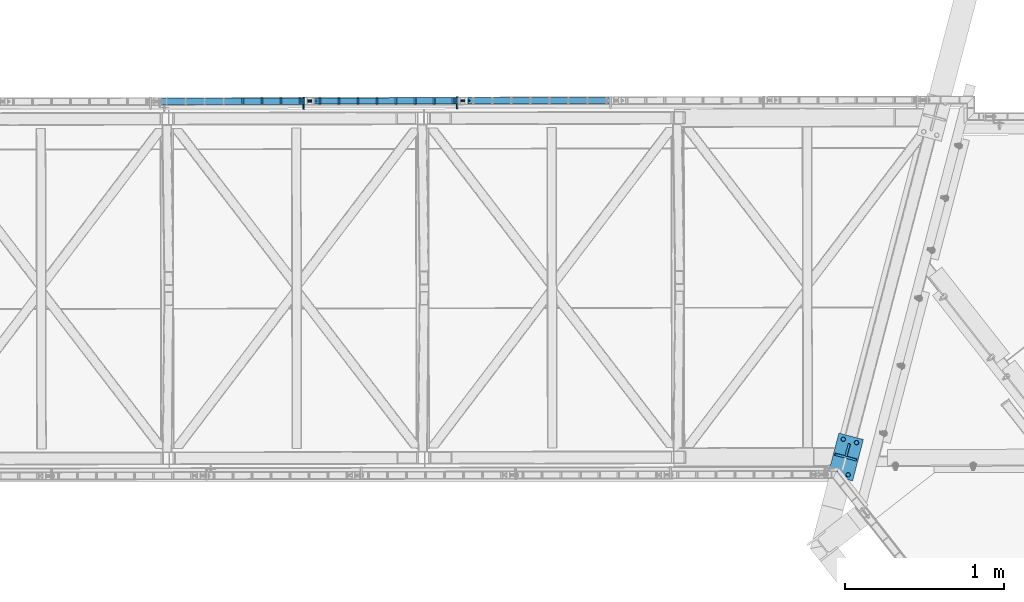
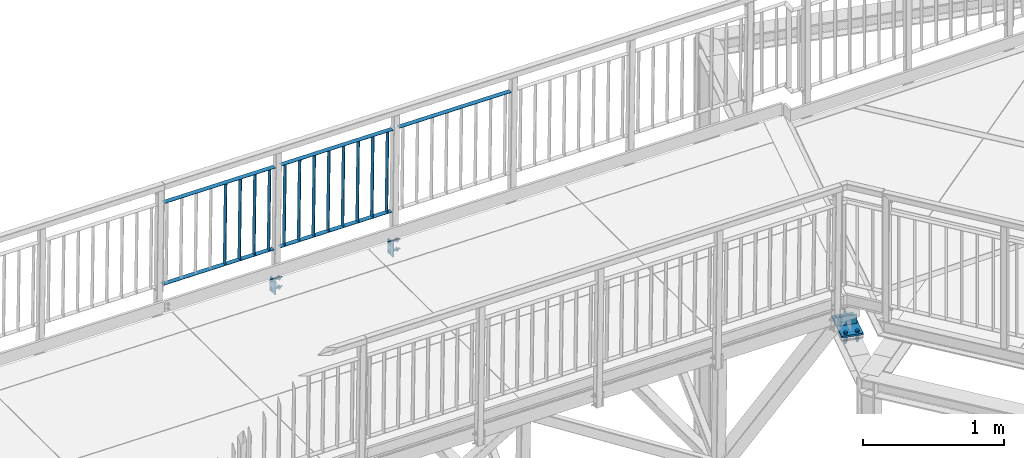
# One storey, part 120 of 169: 22 discrete accessories, 3 mechanical fasteners, 3 elements without a shape of their own.
"""IFC2X3 building model written with IfcOpenShell, lengths in millimetres."""

from ifc_helpers import new_model, si_unit, frame, origin_with_axes, origin_2d_with_axis, place, context, subcontext, project, spatial, polyline, rectangle, circle, outline, extrude, boolean, clip, halfspace, source, transform, mapped, material, type_object, element, aggregate, save


model = new_model("IFC2X3")

# Units and contexts
model_context = context("Model", 3, precision=1e-05, world=origin_with_axes())
body_context = subcontext(model_context, "Body", "Model", "MODEL_VIEW")
ifc_project = project(units=[si_unit("LENGTHUNIT", "METRE", prefix="MILLI"), si_unit("AREAUNIT", "SQUARE_METRE"), si_unit("VOLUMEUNIT", "CUBIC_METRE"), si_unit("MASSUNIT", "GRAM", prefix="KILO"), si_unit("TIMEUNIT", "SECOND"), si_unit("PLANEANGLEUNIT", "RADIAN"), si_unit("SOLIDANGLEUNIT", "STERADIAN"), si_unit("THERMODYNAMICTEMPERATUREUNIT", "DEGREE_CELSIUS"), si_unit("LUMINOUSINTENSITYUNIT", "LUMEN")], contexts=[model_context])

# Site, building, storey
site_placement = place(None, origin_with_axes())
site = spatial("IfcSite", under=ifc_project, at=site_placement, Name="Undefined", CompositionType="ELEMENT")
building_placement = place(site_placement, origin_with_axes())
building = spatial("IfcBuilding", under=site, at=building_placement, Name="Undefined", CompositionType="ELEMENT")
storey_placement = place(building_placement, origin_with_axes())
storey = spatial("IfcBuildingStorey", under=building, at=storey_placement, Name="Undefined", CompositionType="ELEMENT", Elevation=0.0)

# Assembly, discrete accessories
assembly_1_placement = place(storey_placement, origin_with_axes())
assembly_1 = element("IfcElementAssembly", 1, at=assembly_1_placement, inside=storey, Name="Steel Assembly", AssemblyPlace="NOTDEFINED", PredefinedType="RIGID_FRAME")
ifc_material_1 = material(Name="STEEL/S235")
discrete_accessory_type_1 = type_object("IfcDiscreteAccessoryType", Name="BLACHA")
discrete_accessory_1_placement = place(assembly_1_placement, frame((15987.3560823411, 2334.83201882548, 13750.9538254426), z_axis=(0.9999174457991, 0.00186469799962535, -0.0127131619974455), x_axis=(-0.0018648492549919, 0.999998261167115, -4.2996762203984e-08)))
discrete_accessory_1 = element("IfcDiscreteAccessory", 2, at=discrete_accessory_1_placement, type_object=discrete_accessory_type_1, material=ifc_material_1, Name="BLACHA", ObjectType="BL10*120", context=body_context, shape_type="SweptSolid", body=[
    extrude(outline(polyline([(-5.35749222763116e-11, -59.9999999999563), (5.3567816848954e-11, 59.9999999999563), (75.0000002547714, 59.9999999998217), (75.0000002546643, -60.0000000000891), (-5.35749222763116e-11, -59.9999999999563)])), frame((-1.81898926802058e-12, -1.18000176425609e-16, -5.00000000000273), z_axis=(0.0, 0.0, 1.0), x_axis=(1.0, 0.0, 0.0)), (0.0, 0.0, 1.0), 10.0),
])
discrete_accessory_2_placement = place(assembly_1_placement, frame((15020.7414284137, 2333.02942656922, 13763.2435686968), z_axis=(0.9999174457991, 0.00186469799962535, -0.0127131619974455), x_axis=(-0.0018648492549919, 0.999998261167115, -4.2996762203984e-08)))
discrete_accessory_2 = element("IfcDiscreteAccessory", 3, at=discrete_accessory_2_placement, type_object=discrete_accessory_type_1, material=ifc_material_1, Name="BLACHA", ObjectType="BL10*120", context=body_context, shape_type="SweptSolid", body=[
    extrude(outline(polyline([(-5.35749222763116e-11, -59.9999999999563), (5.3567816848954e-11, 59.9999999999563), (75.0000002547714, 59.9999999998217), (75.0000002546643, -60.0000000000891), (-5.35749222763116e-11, -59.9999999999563)])), frame((-1.81898926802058e-12, -1.18000176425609e-16, -5.00000000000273), z_axis=(0.0, 0.0, 1.0), x_axis=(1.0, 0.0, 0.0)), (0.0, 0.0, 1.0), 10.0),
])
ifc_material_2 = material(Name="STEEL/S355")
discrete_accessory_3_placement = place(assembly_1_placement, frame((18325.6061062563, 28.8059378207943, 13577.7063906), z_axis=(0.0, 0.0, 1.0), x_axis=(0.967563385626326, -0.252628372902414, 0.0)))
discrete_accessory_3 = element("IfcDiscreteAccessory", 4, at=discrete_accessory_3_placement, type_object=discrete_accessory_type_1, material=ifc_material_2, Name="BLACHA", ObjectType="BL15*160", context=body_context, shape_type="SweptSolid", body=[
    extrude(outline(polyline([(0.0, 0.0), (160.000000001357, 1.36424205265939e-10), (160.000000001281, 269.999999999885), (-5.46424416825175e-09, 269.999999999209), (0.0, 0.0)])), frame((0.0, -1.24077091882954e-23, -7.49999999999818), z_axis=(0.0, 0.0, 1.0), x_axis=(1.0, 0.0, 0.0)), (0.0, 0.0, 1.0), 15.0),
])
discrete_accessory_type_2 = type_object("IfcDiscreteAccessoryType", Name="BEAM")
discrete_accessory_4_placement = place(assembly_1_placement, frame((18449.7792712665, 183.728725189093, 13595.7127868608), z_axis=(-0.967562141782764, 0.252628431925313, -0.00154180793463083), x_axis=(-0.00159589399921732, -9.18599999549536e-06, 0.999998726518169)))
discrete_accessory_4 = element("IfcDiscreteAccessory", 5, at=discrete_accessory_4_placement, type_object=discrete_accessory_type_2, material=ifc_material_1, Name="BEAM", ObjectType="BL12*80", context=body_context, shape_type="Clipping", body=[
    clip(clip(extrude(outline(polyline([(-10.4899134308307, -39.99999999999), (-10.522877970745, 39.9999999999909), (63.835120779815, 39.9999999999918), (64.1268866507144, -39.99999999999), (-10.4899134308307, -39.99999999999)])), frame((-1.81898942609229e-12, -1.81898940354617e-12, -5.99999999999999), z_axis=(0.0, 0.0, 1.0), x_axis=(1.0, 0.0, 0.0)), (0.0, 0.0, 1.0), 12.0), halfspace(frame((-10.9184715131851, 1000.0030055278, -0.0115622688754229), z_axis=(0.999998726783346, 0.000412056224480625, -0.00154163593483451), x_axis=(-0.00154163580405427, -6.35004767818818e-07, -0.999998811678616)), True)), halfspace(frame((67.6403388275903, -1000.2121514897, 0.830186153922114), z_axis=(-0.999897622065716, -0.00364670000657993, 0.0138364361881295), x_axis=(-0.0138363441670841, -5.04626413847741e-05, -0.999904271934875)), True)),
])
discrete_accessory_5_placement = place(assembly_1_placement, frame((18437.116012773, 139.216722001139, 13546.2064043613), z_axis=(-0.252628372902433, -0.967563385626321, 0.0), x_axis=(0.0, 0.0, 1.0)))
discrete_accessory_5 = element("IfcDiscreteAccessory", 6, at=discrete_accessory_5_placement, type_object=discrete_accessory_type_2, material=ifc_material_1, Name="BEAM", ObjectType="BL12*140", context=body_context, shape_type="Clipping", body=[
    clip(clip(extrude(outline(polyline([(38.9999999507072, 69.9999999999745), (114.508781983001, 69.9999999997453), (112.787351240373, -70.0000000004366), (39.0000000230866, -70.0000000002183), (38.9999999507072, 69.9999999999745)])), frame((-1.81898942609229e-12, -1.81898940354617e-12, -5.99999999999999), z_axis=(0.0, 0.0, 1.0), x_axis=(1.0, 0.0, 0.0)), (0.0, 0.0, 1.0), 12.0), halfspace(frame((38.9999996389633, 1000.00000000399, 4.52928361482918e-09), z_axis=(1.0, 0.0, 0.0), x_axis=(-2.54700353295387e-10, 0.0, -1.0)), True)), halfspace(frame((125.952769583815, 1000.66210997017, 0.194080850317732), z_axis=(-0.999919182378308, 0.0122949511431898, 0.00323463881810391), x_axis=(0.00323439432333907, -3.97698973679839e-05, 0.999994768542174)), True)),
])
aggregate(assembly_1, [discrete_accessory_1, discrete_accessory_2, discrete_accessory_4, discrete_accessory_5, discrete_accessory_3])

# Assembly, discrete accessories, mechanical fasteners
assembly_2_placement = place(storey_placement, origin_with_axes())
assembly_2 = element("IfcElementAssembly", 7, at=assembly_2_placement, inside=storey, Name="Steel Assembly", AssemblyPlace="NOTDEFINED", PredefinedType="RIGID_FRAME")
discrete_accessory_type_3 = type_object("IfcDiscreteAccessoryType", Name="PORĘCZ")
discrete_accessory_6_placement = place(assembly_2_placement, frame((14096.9348925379, 2381.30679816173, 14790.0698868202), z_axis=(-0.012713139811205, -2.37511238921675e-05, -0.999919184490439), x_axis=(0.9999174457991, 0.00186469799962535, -0.0127131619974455)))
discrete_accessory_6 = element("IfcDiscreteAccessory", 8, at=discrete_accessory_6_placement, type_object=discrete_accessory_type_3, material=ifc_material_1, Name="PORĘCZ", ObjectType="BL40*3", context=body_context, shape_type="CSG", body=[
    boolean("DIFFERENCE", boolean("DIFFERENCE", boolean("DIFFERENCE", extrude(outline(polyline([(30.1906973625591, 20.0000000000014), (941.194458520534, 20.0000000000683), (941.194458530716, -19.9999999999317), (30.1906973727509, -19.9999999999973), (30.1906973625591, 20.0000000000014)])), frame((1.81898940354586e-12, -1.77635442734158e-15, -1.50000000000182), z_axis=(0.0, 0.0, 1.0), x_axis=(1.0, 0.0, 0.0)), (0.0, 0.0, 1.0), 3.0), extrude(rectangle(XDim=51.0, YDim=51.0, at=origin_2d_with_axis()), frame((-5.94487782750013e-08, -4.65977194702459e-09, -139.999999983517), z_axis=(0.0, 0.0, 1.0), x_axis=(1.0, 0.0, 0.0)), (0.0, 0.0, 1.0), 280.0)), extrude(rectangle(XDim=51.0, YDim=51.0, at=origin_2d_with_axis()), frame((966.694458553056, -6.96000839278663e-09, -139.999999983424), z_axis=(0.0, 0.0, 1.0), x_axis=(1.0, 0.0, 0.0)), (0.0, 0.0, 1.0), 280.0)), halfspace(frame((30.1906971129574, 1000.00000000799, -1.20417098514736e-09), z_axis=(1.0, 0.0, 0.0), x_axis=(-2.54700353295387e-10, 0.0, -1.0)), True)),
])
discrete_accessory_7_placement = place(assembly_2_placement, frame((15063.5495464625, 2383.10939138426, 14777.7801435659), z_axis=(-0.012713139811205, -2.37511238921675e-05, -0.999919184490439), x_axis=(0.9999174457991, 0.00186469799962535, -0.0127131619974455)))
discrete_accessory_7 = element("IfcDiscreteAccessory", 9, at=discrete_accessory_7_placement, type_object=discrete_accessory_type_3, material=ifc_material_1, Name="PORĘCZ", ObjectType="BL40*3", context=body_context, shape_type="CSG", body=[
    boolean("DIFFERENCE", boolean("DIFFERENCE", extrude(outline(polyline([(25.4999999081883, 20.0000000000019), (941.194458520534, 20.0000000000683), (941.194458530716, -19.9999999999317), (25.499999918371, -19.9999999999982), (25.4999999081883, 20.0000000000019)])), frame((1.81898940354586e-12, -1.77635442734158e-15, -1.50000000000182), z_axis=(0.0, 0.0, 1.0), x_axis=(1.0, 0.0, 0.0)), (0.0, 0.0, 1.0), 3.0), extrude(rectangle(XDim=51.0, YDim=51.0, at=origin_2d_with_axis()), frame((-5.94487782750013e-08, -4.65977194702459e-09, -139.999999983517), z_axis=(0.0, 0.0, 1.0), x_axis=(1.0, 0.0, 0.0)), (0.0, 0.0, 1.0), 280.0)), extrude(rectangle(XDim=51.0, YDim=51.0, at=origin_2d_with_axis()), frame((966.694458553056, -6.96000839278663e-09, -139.999999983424), z_axis=(0.0, 0.0, 1.0), x_axis=(1.0, 0.0, 0.0)), (0.0, 0.0, 1.0), 280.0)),
])
discrete_accessory_8_placement = place(assembly_2_placement, frame((16030.1642003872, 2384.91198460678, 14765.4904003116), z_axis=(-0.012713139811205, -2.37511238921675e-05, -0.999919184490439), x_axis=(0.9999174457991, 0.00186469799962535, -0.0127131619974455)))
discrete_accessory_8 = element("IfcDiscreteAccessory", 10, at=discrete_accessory_8_placement, type_object=discrete_accessory_type_3, material=ifc_material_1, Name="PORĘCZ", ObjectType="BL40*3", context=body_context, shape_type="CSG", body=[
    boolean("DIFFERENCE", boolean("DIFFERENCE", extrude(outline(polyline([(25.4999999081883, 20.0000000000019), (941.194458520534, 20.0000000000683), (941.194458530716, -19.9999999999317), (25.499999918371, -19.9999999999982), (25.4999999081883, 20.0000000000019)])), frame((1.81898940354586e-12, -1.77635442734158e-15, -1.50000000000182), z_axis=(0.0, 0.0, 1.0), x_axis=(1.0, 0.0, 0.0)), (0.0, 0.0, 1.0), 3.0), extrude(rectangle(XDim=51.0, YDim=51.0, at=origin_2d_with_axis()), frame((-5.94487782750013e-08, -4.65977194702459e-09, -139.999999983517), z_axis=(0.0, 0.0, 1.0), x_axis=(1.0, 0.0, 0.0)), (0.0, 0.0, 1.0), 280.0)), extrude(rectangle(XDim=51.0, YDim=51.0, at=origin_2d_with_axis()), frame((966.694458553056, -6.96000839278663e-09, -139.999999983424), z_axis=(0.0, 0.0, 1.0), x_axis=(1.0, 0.0, 0.0)), (0.0, 0.0, 1.0), 280.0)),
])
discrete_accessory_9_placement = place(assembly_2_placement, frame((14642.0806713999, 2382.32342056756, 14928.1505072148), z_axis=(0.00186484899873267, -0.999998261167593, 4.28757666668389e-08), x_axis=(-0.012713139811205, -2.37511238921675e-05, -0.999919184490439)))
discrete_accessory_9 = element("IfcDiscreteAccessory", 11, at=discrete_accessory_9_placement, type_object=discrete_accessory_type_3, material=ifc_material_1, Name="PORĘCZ", ObjectType="BL40*3", context=body_context, shape_type="Clipping", body=[
    clip(clip(extrude(rectangle(XDim=3.0, YDim=40.0, at=origin_2d_with_axis()), frame((848.500000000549, 1.47191286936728e-15, -8.89750592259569e-16), z_axis=(-1.0, -3.46944695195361e-18, -1.38777878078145e-17), x_axis=(1.73472347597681e-18, -1.0, 0.0)), (0.0, 0.0, 1.0), 702.0), halfspace(frame((848.499999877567, 4.522007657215e-09, 1000.00000000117), z_axis=(-1.0, -3.46944695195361e-18, -1.38777878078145e-17), x_axis=(1.73472347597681e-18, -1.0, 0.0)), True)), halfspace(frame((146.499999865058, 4.97311702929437e-09, 1000.00000000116), z_axis=(1.0, 0.0, 0.0), x_axis=(0.0, 1.0, 0.0)), True)),
])
discrete_accessory_10_placement = place(assembly_2_placement, frame((14762.0707648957, 2382.54718432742, 14926.6249277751), z_axis=(0.00186484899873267, -0.999998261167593, 4.28757666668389e-08), x_axis=(-0.012713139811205, -2.37511238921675e-05, -0.999919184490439)))
discrete_accessory_10 = element("IfcDiscreteAccessory", 12, at=discrete_accessory_10_placement, type_object=discrete_accessory_type_3, material=ifc_material_1, Name="PORĘCZ", ObjectType="BL40*3", context=body_context, shape_type="Clipping", body=[
    clip(clip(extrude(rectangle(XDim=3.0, YDim=40.0, at=origin_2d_with_axis()), frame((848.500000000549, 1.47191286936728e-15, -8.89750592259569e-16), z_axis=(-1.0, -3.46944695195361e-18, -1.38777878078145e-17), x_axis=(1.73472347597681e-18, -1.0, 0.0)), (0.0, 0.0, 1.0), 702.0), halfspace(frame((848.499999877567, 4.522007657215e-09, 1000.00000000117), z_axis=(-1.0, -3.46944695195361e-18, -1.38777878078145e-17), x_axis=(1.73472347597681e-18, -1.0, 0.0)), True)), halfspace(frame((146.499999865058, 4.97311702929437e-09, 1000.00000000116), z_axis=(1.0, 0.0, 0.0), x_axis=(0.0, 1.0, 0.0)), True)),
])
discrete_accessory_11_placement = place(assembly_2_placement, frame((14882.0608583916, 2382.77094808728, 14925.0993483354), z_axis=(0.00186484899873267, -0.999998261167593, 4.28757666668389e-08), x_axis=(-0.012713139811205, -2.37511238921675e-05, -0.999919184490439)))
discrete_accessory_11 = element("IfcDiscreteAccessory", 13, at=discrete_accessory_11_placement, type_object=discrete_accessory_type_3, material=ifc_material_1, Name="PORĘCZ", ObjectType="BL40*3", context=body_context, shape_type="Clipping", body=[
    clip(clip(extrude(rectangle(XDim=3.0, YDim=40.0, at=origin_2d_with_axis()), frame((848.500000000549, 1.47191286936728e-15, -8.89750592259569e-16), z_axis=(-1.0, -3.46944695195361e-18, -1.38777878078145e-17), x_axis=(1.73472347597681e-18, -1.0, 0.0)), (0.0, 0.0, 1.0), 702.0), halfspace(frame((848.499999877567, 4.522007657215e-09, 1000.00000000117), z_axis=(-1.0, -3.46944695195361e-18, -1.38777878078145e-17), x_axis=(1.73472347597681e-18, -1.0, 0.0)), True)), halfspace(frame((146.499999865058, 4.97311702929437e-09, 1000.00000000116), z_axis=(1.0, 0.0, 0.0), x_axis=(0.0, 1.0, 0.0)), True)),
])
discrete_accessory_12_placement = place(assembly_2_placement, frame((15002.0509518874, 2382.99471184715, 14923.5737688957), z_axis=(0.00186484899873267, -0.999998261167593, 4.28757666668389e-08), x_axis=(-0.012713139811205, -2.37511238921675e-05, -0.999919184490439)))
discrete_accessory_12 = element("IfcDiscreteAccessory", 14, at=discrete_accessory_12_placement, type_object=discrete_accessory_type_3, material=ifc_material_1, Name="PORĘCZ", ObjectType="BL40*3", context=body_context, shape_type="Clipping", body=[
    clip(clip(extrude(rectangle(XDim=3.0, YDim=40.0, at=origin_2d_with_axis()), frame((848.500000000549, 1.47191286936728e-15, -8.89750592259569e-16), z_axis=(-1.0, -3.46944695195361e-18, -1.38777878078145e-17), x_axis=(1.73472347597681e-18, -1.0, 0.0)), (0.0, 0.0, 1.0), 702.0), halfspace(frame((848.499999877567, 4.522007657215e-09, 1000.00000000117), z_axis=(-1.0, -3.46944695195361e-18, -1.38777878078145e-17), x_axis=(1.73472347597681e-18, -1.0, 0.0)), True)), halfspace(frame((146.499999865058, 4.97311702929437e-09, 1000.00000000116), z_axis=(1.0, 0.0, 0.0), x_axis=(0.0, 1.0, 0.0)), True)),
])
discrete_accessory_13_placement = place(assembly_2_placement, frame((15128.7349513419, 2383.23095875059, 14921.9630817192), z_axis=(0.00186484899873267, -0.999998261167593, 4.28757666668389e-08), x_axis=(-0.012713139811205, -2.37511238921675e-05, -0.999919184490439)))
discrete_accessory_13 = element("IfcDiscreteAccessory", 15, at=discrete_accessory_13_placement, type_object=discrete_accessory_type_3, material=ifc_material_1, Name="PORĘCZ", ObjectType="BL40*3", context=body_context, shape_type="Clipping", body=[
    clip(clip(extrude(rectangle(XDim=3.0, YDim=40.0, at=origin_2d_with_axis()), frame((848.500000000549, 1.47191286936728e-15, -8.89750592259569e-16), z_axis=(-1.0, -3.46944695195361e-18, -1.38777878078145e-17), x_axis=(1.73472347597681e-18, -1.0, 0.0)), (0.0, 0.0, 1.0), 702.0), halfspace(frame((848.499999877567, 4.522007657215e-09, 1000.00000000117), z_axis=(-1.0, -3.46944695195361e-18, -1.38777878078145e-17), x_axis=(1.73472347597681e-18, -1.0, 0.0)), True)), halfspace(frame((146.499999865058, 4.97311702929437e-09, 1000.00000000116), z_axis=(1.0, 0.0, 0.0), x_axis=(0.0, 1.0, 0.0)), True)),
])
discrete_accessory_14_placement = place(assembly_2_placement, frame((15248.7250448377, 2383.45472251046, 14920.4375022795), z_axis=(0.00186484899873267, -0.999998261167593, 4.28757666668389e-08), x_axis=(-0.012713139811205, -2.37511238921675e-05, -0.999919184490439)))
discrete_accessory_14 = element("IfcDiscreteAccessory", 16, at=discrete_accessory_14_placement, type_object=discrete_accessory_type_3, material=ifc_material_1, Name="PORĘCZ", ObjectType="BL40*3", context=body_context, shape_type="Clipping", body=[
    clip(clip(extrude(rectangle(XDim=3.0, YDim=40.0, at=origin_2d_with_axis()), frame((848.500000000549, 1.47191286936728e-15, -8.89750592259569e-16), z_axis=(-1.0, -3.46944695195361e-18, -1.38777878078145e-17), x_axis=(1.73472347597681e-18, -1.0, 0.0)), (0.0, 0.0, 1.0), 702.0), halfspace(frame((848.499999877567, 4.522007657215e-09, 1000.00000000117), z_axis=(-1.0, -3.46944695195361e-18, -1.38777878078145e-17), x_axis=(1.73472347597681e-18, -1.0, 0.0)), True)), halfspace(frame((146.499999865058, 4.97311702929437e-09, 1000.00000000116), z_axis=(1.0, 0.0, 0.0), x_axis=(0.0, 1.0, 0.0)), True)),
])
discrete_accessory_15_placement = place(assembly_2_placement, frame((15368.7151383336, 2383.67848627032, 14918.9119228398), z_axis=(0.00186484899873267, -0.999998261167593, 4.28757666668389e-08), x_axis=(-0.012713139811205, -2.37511238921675e-05, -0.999919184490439)))
discrete_accessory_15 = element("IfcDiscreteAccessory", 17, at=discrete_accessory_15_placement, type_object=discrete_accessory_type_3, material=ifc_material_1, Name="PORĘCZ", ObjectType="BL40*3", context=body_context, shape_type="Clipping", body=[
    clip(clip(extrude(rectangle(XDim=3.0, YDim=40.0, at=origin_2d_with_axis()), frame((848.500000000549, 1.47191286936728e-15, -8.89750592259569e-16), z_axis=(-1.0, -3.46944695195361e-18, -1.38777878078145e-17), x_axis=(1.73472347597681e-18, -1.0, 0.0)), (0.0, 0.0, 1.0), 702.0), halfspace(frame((848.499999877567, 4.522007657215e-09, 1000.00000000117), z_axis=(-1.0, -3.46944695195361e-18, -1.38777878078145e-17), x_axis=(1.73472347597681e-18, -1.0, 0.0)), True)), halfspace(frame((146.499999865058, 4.97311702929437e-09, 1000.00000000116), z_axis=(1.0, 0.0, 0.0), x_axis=(0.0, 1.0, 0.0)), True)),
])
discrete_accessory_16_placement = place(assembly_2_placement, frame((15488.7052318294, 2383.90225003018, 14917.3863434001), z_axis=(0.00186484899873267, -0.999998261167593, 4.28757666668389e-08), x_axis=(-0.012713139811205, -2.37511238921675e-05, -0.999919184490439)))
discrete_accessory_16 = element("IfcDiscreteAccessory", 18, at=discrete_accessory_16_placement, type_object=discrete_accessory_type_3, material=ifc_material_1, Name="PORĘCZ", ObjectType="BL40*3", context=body_context, shape_type="Clipping", body=[
    clip(clip(extrude(rectangle(XDim=3.0, YDim=40.0, at=origin_2d_with_axis()), frame((848.500000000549, 1.47191286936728e-15, -8.89750592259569e-16), z_axis=(-1.0, -3.46944695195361e-18, -1.38777878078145e-17), x_axis=(1.73472347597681e-18, -1.0, 0.0)), (0.0, 0.0, 1.0), 702.0), halfspace(frame((848.499999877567, 4.522007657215e-09, 1000.00000000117), z_axis=(-1.0, -3.46944695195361e-18, -1.38777878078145e-17), x_axis=(1.73472347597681e-18, -1.0, 0.0)), True)), halfspace(frame((146.499999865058, 4.97311702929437e-09, 1000.00000000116), z_axis=(1.0, 0.0, 0.0), x_axis=(0.0, 1.0, 0.0)), True)),
])
discrete_accessory_17_placement = place(assembly_2_placement, frame((15608.6953253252, 2384.12601379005, 14915.8607639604), z_axis=(0.00186484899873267, -0.999998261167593, 4.28757666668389e-08), x_axis=(-0.012713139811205, -2.37511238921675e-05, -0.999919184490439)))
discrete_accessory_17 = element("IfcDiscreteAccessory", 19, at=discrete_accessory_17_placement, type_object=discrete_accessory_type_3, material=ifc_material_1, Name="PORĘCZ", ObjectType="BL40*3", context=body_context, shape_type="Clipping", body=[
    clip(clip(extrude(rectangle(XDim=3.0, YDim=40.0, at=origin_2d_with_axis()), frame((848.500000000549, 1.47191286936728e-15, -8.89750592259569e-16), z_axis=(-1.0, -3.46944695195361e-18, -1.38777878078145e-17), x_axis=(1.73472347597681e-18, -1.0, 0.0)), (0.0, 0.0, 1.0), 702.0), halfspace(frame((848.499999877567, 4.522007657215e-09, 1000.00000000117), z_axis=(-1.0, -3.46944695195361e-18, -1.38777878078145e-17), x_axis=(1.73472347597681e-18, -1.0, 0.0)), True)), halfspace(frame((146.499999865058, 4.97311702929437e-09, 1000.00000000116), z_axis=(1.0, 0.0, 0.0), x_axis=(0.0, 1.0, 0.0)), True)),
])
discrete_accessory_18_placement = place(assembly_2_placement, frame((15728.6854188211, 2384.34977754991, 14914.3351845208), z_axis=(0.00186484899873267, -0.999998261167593, 4.28757666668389e-08), x_axis=(-0.012713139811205, -2.37511238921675e-05, -0.999919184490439)))
discrete_accessory_18 = element("IfcDiscreteAccessory", 20, at=discrete_accessory_18_placement, type_object=discrete_accessory_type_3, material=ifc_material_1, Name="PORĘCZ", ObjectType="BL40*3", context=body_context, shape_type="Clipping", body=[
    clip(clip(extrude(rectangle(XDim=3.0, YDim=40.0, at=origin_2d_with_axis()), frame((848.500000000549, 1.47191286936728e-15, -8.89750592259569e-16), z_axis=(-1.0, -3.46944695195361e-18, -1.38777878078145e-17), x_axis=(1.73472347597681e-18, -1.0, 0.0)), (0.0, 0.0, 1.0), 702.0), halfspace(frame((848.499999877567, 4.522007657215e-09, 1000.00000000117), z_axis=(-1.0, -3.46944695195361e-18, -1.38777878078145e-17), x_axis=(1.73472347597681e-18, -1.0, 0.0)), True)), halfspace(frame((146.499999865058, 4.97311702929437e-09, 1000.00000000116), z_axis=(1.0, 0.0, 0.0), x_axis=(0.0, 1.0, 0.0)), True)),
])
discrete_accessory_19_placement = place(assembly_2_placement, frame((15848.6755123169, 2384.57354130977, 14912.8096050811), z_axis=(0.00186484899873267, -0.999998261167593, 4.28757666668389e-08), x_axis=(-0.012713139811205, -2.37511238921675e-05, -0.999919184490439)))
discrete_accessory_19 = element("IfcDiscreteAccessory", 21, at=discrete_accessory_19_placement, type_object=discrete_accessory_type_3, material=ifc_material_1, Name="PORĘCZ", ObjectType="BL40*3", context=body_context, shape_type="Clipping", body=[
    clip(clip(extrude(rectangle(XDim=3.0, YDim=40.0, at=origin_2d_with_axis()), frame((848.500000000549, 1.47191286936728e-15, -8.89750592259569e-16), z_axis=(-1.0, -3.46944695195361e-18, -1.38777878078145e-17), x_axis=(1.73472347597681e-18, -1.0, 0.0)), (0.0, 0.0, 1.0), 702.0), halfspace(frame((848.499999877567, 4.522007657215e-09, 1000.00000000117), z_axis=(-1.0, -3.46944695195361e-18, -1.38777878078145e-17), x_axis=(1.73472347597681e-18, -1.0, 0.0)), True)), halfspace(frame((146.499999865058, 4.97311702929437e-09, 1000.00000000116), z_axis=(1.0, 0.0, 0.0), x_axis=(0.0, 1.0, 0.0)), True)),
])
discrete_accessory_20_placement = place(assembly_2_placement, frame((15968.6656058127, 2384.79730506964, 14911.2840256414), z_axis=(0.00186484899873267, -0.999998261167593, 4.28757666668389e-08), x_axis=(-0.012713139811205, -2.37511238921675e-05, -0.999919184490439)))
discrete_accessory_20 = element("IfcDiscreteAccessory", 22, at=discrete_accessory_20_placement, type_object=discrete_accessory_type_3, material=ifc_material_1, Name="PORĘCZ", ObjectType="BL40*3", context=body_context, shape_type="Clipping", body=[
    clip(clip(extrude(rectangle(XDim=3.0, YDim=40.0, at=origin_2d_with_axis()), frame((848.500000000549, 1.47191286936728e-15, -8.89750592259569e-16), z_axis=(-1.0, -3.46944695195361e-18, -1.38777878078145e-17), x_axis=(1.73472347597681e-18, -1.0, 0.0)), (0.0, 0.0, 1.0), 702.0), halfspace(frame((848.499999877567, 4.522007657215e-09, 1000.00000000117), z_axis=(-1.0, -3.46944695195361e-18, -1.38777878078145e-17), x_axis=(1.73472347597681e-18, -1.0, 0.0)), True)), halfspace(frame((146.499999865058, 4.97311702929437e-09, 1000.00000000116), z_axis=(1.0, 0.0, 0.0), x_axis=(0.0, 1.0, 0.0)), True)),
])
discrete_accessory_21_placement = place(assembly_2_placement, frame((14087.9721289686, 2381.29005362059, 14085.1268617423), z_axis=(-0.012713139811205, -2.37511238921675e-05, -0.999919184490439), x_axis=(0.9999174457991, 0.00186469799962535, -0.0127131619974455)))
discrete_accessory_21 = element("IfcDiscreteAccessory", 23, at=discrete_accessory_21_placement, type_object=discrete_accessory_type_3, material=ifc_material_1, Name="PORĘCZ", ObjectType="BL40*3", context=body_context, shape_type="CSG", body=[
    boolean("DIFFERENCE", boolean("DIFFERENCE", boolean("DIFFERENCE", extrude(outline(polyline([(30.1906973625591, 20.0000000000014), (941.194458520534, 20.0000000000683), (941.194458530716, -19.9999999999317), (30.1906973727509, -19.9999999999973), (30.1906973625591, 20.0000000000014)])), frame((1.81898940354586e-12, -1.77635442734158e-15, -1.50000000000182), z_axis=(0.0, 0.0, 1.0), x_axis=(1.0, 0.0, 0.0)), (0.0, 0.0, 1.0), 3.0), extrude(rectangle(XDim=51.0, YDim=51.0, at=origin_2d_with_axis()), frame((-5.94487782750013e-08, -4.65977194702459e-09, -139.999999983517), z_axis=(0.0, 0.0, 1.0), x_axis=(1.0, 0.0, 0.0)), (0.0, 0.0, 1.0), 280.0)), extrude(rectangle(XDim=51.0, YDim=51.0, at=origin_2d_with_axis()), frame((966.694458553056, -6.96000839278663e-09, -139.999999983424), z_axis=(0.0, 0.0, 1.0), x_axis=(1.0, 0.0, 0.0)), (0.0, 0.0, 1.0), 280.0)), halfspace(frame((30.1906971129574, 1000.00000000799, -1.20417098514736e-09), z_axis=(1.0, 0.0, 0.0), x_axis=(-2.54700353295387e-10, 0.0, -1.0)), True)),
])
discrete_accessory_22_placement = place(assembly_2_placement, frame((15054.5867828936, 2383.09264684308, 14072.837118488), z_axis=(-0.012713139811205, -2.37511238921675e-05, -0.999919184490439), x_axis=(0.9999174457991, 0.00186469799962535, -0.0127131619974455)))
discrete_accessory_22 = element("IfcDiscreteAccessory", 24, at=discrete_accessory_22_placement, type_object=discrete_accessory_type_3, material=ifc_material_1, Name="PORĘCZ", ObjectType="BL40*3", context=body_context, shape_type="CSG", body=[
    boolean("DIFFERENCE", boolean("DIFFERENCE", extrude(outline(polyline([(25.4999999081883, 20.0000000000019), (941.194458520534, 20.0000000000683), (941.194458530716, -19.9999999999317), (25.499999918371, -19.9999999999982), (25.4999999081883, 20.0000000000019)])), frame((1.81898940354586e-12, -1.77635442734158e-15, -1.50000000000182), z_axis=(0.0, 0.0, 1.0), x_axis=(1.0, 0.0, 0.0)), (0.0, 0.0, 1.0), 3.0), extrude(rectangle(XDim=51.0, YDim=51.0, at=origin_2d_with_axis()), frame((-5.94487782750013e-08, -4.65977194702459e-09, -139.999999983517), z_axis=(0.0, 0.0, 1.0), x_axis=(1.0, 0.0, 0.0)), (0.0, 0.0, 1.0), 280.0)), extrude(rectangle(XDim=51.0, YDim=51.0, at=origin_2d_with_axis()), frame((966.694458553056, -6.96000839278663e-09, -139.999999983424), z_axis=(0.0, 0.0, 1.0), x_axis=(1.0, 0.0, 0.0)), (0.0, 0.0, 1.0), 280.0)),
])
ifc_material_3 = material(Name="Undefined")
discrete_accessory_type_4 = type_object("IfcDiscreteAccessoryType", Name="Bolt assembly")
shared_shape_1 = source(origin_with_axes(), body_context, "Body", "SweptSolid", [
    extrude(circle(Radius=9.0, at=origin_2d_with_axis()), frame((0.0, -4.90000000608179, 0.0), z_axis=(0.0, 1.0, 0.0), x_axis=(1.0, 0.0, 0.0)), (0.0, 0.0, 1.0), 10.0),
    extrude(circle(Radius=9.0, at=origin_2d_with_axis()), frame((0.0, 4.89999999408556, 0.0), z_axis=(0.0, 1.0, 0.0), x_axis=(1.0, 0.0, 0.0)), (0.0, 0.0, 1.0), 50.1),
    extrude(outline(polyline([(10.39230484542, 0.0), (5.19615242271, 9.00000000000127), (-5.19615242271, 9.00000000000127), (-10.39230484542, 0.0), (-5.19615242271, -9.00000000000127), (5.19615242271, -9.00000000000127), (10.39230484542, 0.0)])), frame((0.0, -15.5000000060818, 0.0), z_axis=(0.0, 1.0, 0.0), x_axis=(1.0, 0.0, 0.0)), (0.0, 0.0, 1.0), 7.5),
    extrude(circle(Radius=6.0, at=origin_2d_with_axis()), frame((0.0, -8.00000000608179, 0.0), z_axis=(0.0, 1.0, 0.0), x_axis=(1.0, 0.0, 0.0)), (0.0, 0.0, 1.0), 90.0),
    extrude(circle(Radius=18.5, at=origin_2d_with_axis()), frame((0.0, -8.00000000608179, 0.0), z_axis=(0.0, 1.0, 0.0), x_axis=(1.0, 0.0, 0.0)), (0.0, 0.0, 1.0), 3.0),
    extrude(circle(Radius=18.5, at=origin_2d_with_axis()), frame((0.0, 54.9999999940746, 0.0), z_axis=(0.0, 1.0, 0.0), x_axis=(1.0, 0.0, 0.0)), (0.0, 0.0, 1.0), 3.0),
    extrude(outline(polyline([(10.96965511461, 0.0), (5.484827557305, 9.50000000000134), (-5.484827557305, 9.50000000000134), (-10.96965511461, 0.0), (-5.484827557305, -9.50000000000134), (5.484827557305, -9.50000000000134), (10.96965511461, 0.0)])), frame((0.0, 57.9999999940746, 0.0), z_axis=(0.0, 1.0, 0.0), x_axis=(1.0, 0.0, 0.0)), (0.0, 0.0, 1.0), 10.0),
])
mechanical_fastener_1_placement = place(assembly_2_placement, frame((15987.2691964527, 2384.83194831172, 13751.453782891), z_axis=(0.012712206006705, 0.000523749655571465, 0.999919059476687), x_axis=(0.00187120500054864, -0.999998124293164, 0.00050000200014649)))
mechanical_fastener_1 = element("IfcMechanicalFastener", 25, at=mechanical_fastener_1_placement, type_object=discrete_accessory_type_4, material=ifc_material_3, Name="Bolt assembly", NominalDiameter=12.0, NominalLength=90.0, context=body_context, shape_type="MappedRepresentation", body=[
    mapped(shared_shape_1, transform((-1.15463194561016e-14, 5.45696821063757e-11, -39.9999999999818))),
    mapped(shared_shape_1, transform((8.88178419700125e-15, -5.54791768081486e-11, 39.99999999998))),
])
mechanical_fastener_2_placement = place(assembly_2_placement, frame((15020.6545425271, 2383.0293550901, 13763.7435261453), z_axis=(0.012712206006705, 0.000523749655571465, 0.999919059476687), x_axis=(0.00187120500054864, -0.999998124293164, 0.00050000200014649)))
mechanical_fastener_2 = element("IfcMechanicalFastener", 26, at=mechanical_fastener_2_placement, type_object=discrete_accessory_type_4, material=ifc_material_3, Name="Bolt assembly", NominalDiameter=12.0, NominalLength=90.0, context=body_context, shape_type="MappedRepresentation", body=[
    mapped(shared_shape_1, transform((-1.15463194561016e-14, 5.45696821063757e-11, -39.9999999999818))),
    mapped(shared_shape_1, transform((8.88178419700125e-15, -5.54791768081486e-11, 39.99999999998))),
])
aggregate(assembly_2, [mechanical_fastener_1, mechanical_fastener_2, discrete_accessory_6, discrete_accessory_7, discrete_accessory_8, discrete_accessory_9, discrete_accessory_10, discrete_accessory_11, discrete_accessory_12, discrete_accessory_13, discrete_accessory_14, discrete_accessory_15, discrete_accessory_16, discrete_accessory_17, discrete_accessory_18, discrete_accessory_19, discrete_accessory_20, discrete_accessory_21, discrete_accessory_22])

# Assembly, mechanical fastener
assembly_3_placement = place(storey_placement, origin_with_axes())
assembly_3 = element("IfcElementAssembly", 27, at=assembly_3_placement, inside=storey, Name="Steel Assembly", AssemblyPlace="NOTDEFINED", PredefinedType="RIGID_FRAME")
shared_shape_2 = source(origin_with_axes(), body_context, "Body", "SweptSolid", [
    extrude(circle(Radius=13.0, at=origin_2d_with_axis()), frame((0.0, 0.100000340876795, 0.0), z_axis=(0.0, 1.0, 0.0), x_axis=(1.0, 0.0, 0.0)), (0.0, 0.0, 1.0), 15.0),
    extrude(circle(Radius=13.0, at=origin_2d_with_axis()), frame((0.0, 14.9999935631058, 0.0), z_axis=(0.0, 1.0, 0.0), x_axis=(1.0, 0.0, 0.0)), (0.0, 0.0, 1.0), 15.0),
    extrude(circle(Radius=13.0, at=origin_2d_with_axis()), frame((0.0, 29.9999930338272, 0.0), z_axis=(0.0, 1.0, 0.0), x_axis=(1.0, 0.0, 0.0)), (0.0, 0.0, 1.0), 5.0),
    extrude(circle(Radius=13.0, at=origin_2d_with_axis()), frame((0.0, 34.9999929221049, 0.0), z_axis=(0.0, 1.0, 0.0), x_axis=(1.0, 0.0, 0.0)), (0.0, 0.0, 1.0), 5.0),
    extrude(circle(Radius=13.0, at=origin_2d_with_axis()), frame((0.0, 39.9999928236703, 0.0), z_axis=(0.0, 1.0, 0.0), x_axis=(1.0, 0.0, 0.0)), (0.0, 0.0, 1.0), 5.0),
    extrude(circle(Radius=13.0, at=origin_2d_with_axis()), frame((0.0, 44.6892662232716, 0.0), z_axis=(0.0, 1.0, 0.0), x_axis=(1.0, 0.0, 0.0)), (0.0, 0.0, 1.0), 12.1),
    extrude(outline(polyline([(13.85640646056, 0.0), (6.92820323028, 12.0000000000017), (-6.92820323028, 12.0000000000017), (-13.85640646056, 0.0), (-6.92820323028, -12.0000000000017), (6.92820323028, -12.0000000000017), (13.85640646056, 0.0)])), frame((0.0, -13.0000060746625, 0.0), z_axis=(0.0, 1.0, 0.0), x_axis=(1.0, 0.0, 0.0)), (0.0, 0.0, 1.0), 10.0),
    extrude(circle(Radius=8.0, at=origin_2d_with_axis()), frame((0.0, -3.00000607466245, 0.0), z_axis=(0.0, 1.0, 0.0), x_axis=(1.0, 0.0, 0.0)), (0.0, 0.0, 1.0), 90.0),
    extrude(circle(Radius=15.0, at=origin_2d_with_axis()), frame((0.0, -3.00000607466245, 0.0), z_axis=(0.0, 1.0, 0.0), x_axis=(1.0, 0.0, 0.0)), (0.0, 0.0, 1.0), 3.0),
    extrude(circle(Radius=15.0, at=origin_2d_with_axis()), frame((0.0, 56.7892662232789, 0.0), z_axis=(0.0, 1.0, 0.0), x_axis=(1.0, 0.0, 0.0)), (0.0, 0.0, 1.0), 3.0),
    extrude(outline(polyline([(13.85640646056, 0.0), (6.92820323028, 12.0000000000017), (-6.92820323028, 12.0000000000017), (-13.85640646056, 0.0), (-6.92820323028, -12.0000000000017), (6.92820323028, -12.0000000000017), (13.85640646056, 0.0)])), frame((0.0, 59.7892662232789, 0.0), z_axis=(0.0, 1.0, 0.0), x_axis=(1.0, 0.0, 0.0)), (0.0, 0.0, 1.0), 13.0),
])
mechanical_fastener_3_placement = place(assembly_3_placement, frame((18478.7212317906, 128.353705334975, 13585.2064056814), z_axis=(-0.252628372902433, -0.967563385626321, 0.0), x_axis=(-0.967563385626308, 0.252628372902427, -1.72000000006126e-07)))
mechanical_fastener_3 = element("IfcMechanicalFastener", 28, at=mechanical_fastener_3_placement, type_object=discrete_accessory_type_4, material=ifc_material_3, Name="Bolt assembly", NominalDiameter=16.0, NominalLength=90.0, context=body_context, shape_type="MappedRepresentation", body=[
    mapped(shared_shape_2, transform((-3.63797880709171e-12, 4.00177668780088e-11, -104.999999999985))),
    mapped(shared_shape_2, transform((86.0000000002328, -2.45563569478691e-10, -104.999999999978))),
    mapped(shared_shape_2, transform((7.27595761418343e-12, -4.18367562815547e-11, 104.999999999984))),
    mapped(shared_shape_2, transform((86.0000000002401, -3.27418092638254e-10, 104.999999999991))),
])
aggregate(assembly_3, [mechanical_fastener_3])

save(model, "model.ifc")
